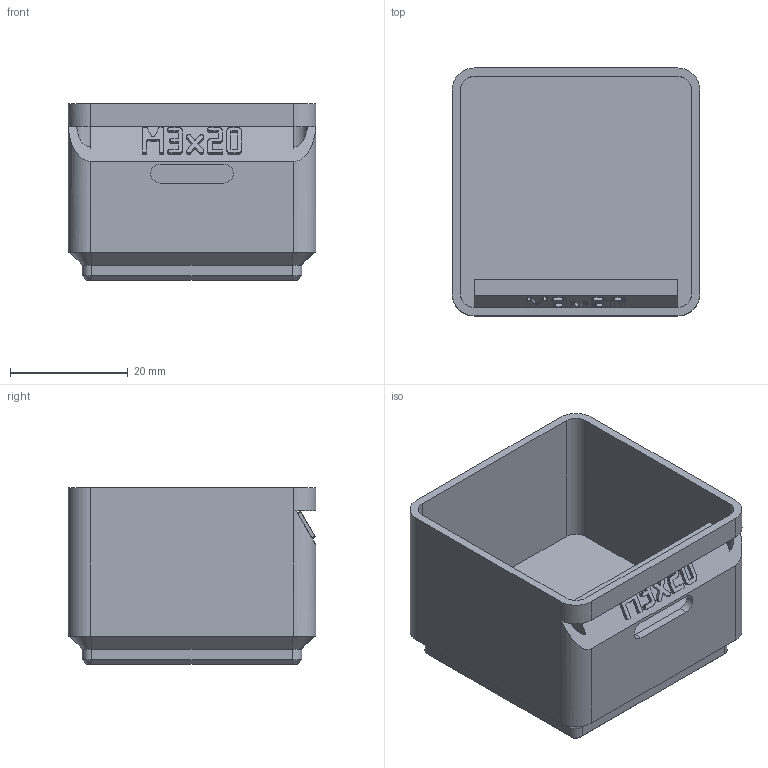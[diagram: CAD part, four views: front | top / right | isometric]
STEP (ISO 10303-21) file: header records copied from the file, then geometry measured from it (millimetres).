
FILE_DESCRIPTION(('Open CASCADE Model'),'2;1');
FILE_NAME('Open CASCADE Shape Model','2026-11-03T17:13:53',('Author'),( 'Open CASCADE'),'Open CASCADE STEP processor 8.0','build123d', 'Unknown');
FILE_SCHEMA(('AUTOMOTIVE_DESIGN { 1 0 10303 214 1 1 1 1 }'));
Length unit declared in the file: millimetre
Products named in the file (1): COMPOUND
Bounding box: 42 x 42 x 30 mm (x, y, z)
Volume: 14813.2 mm3; surface area: 12097.1 mm2
Topology: 1 solids, 1 shells, 540 faces, 1578 edges, 1046 vertices
Faces by surface type: plane 518, cylinder 14, cone 8
Entity records: 37042 total; most frequent: CARTESIAN_POINT 7461, DIRECTION 4788, LINE 3590, VECTOR 3590, ORIENTED_EDGE 3156, PCURVE 3156, DEFINITIONAL_REPRESENTATION 3156, EDGE_CURVE 1578
